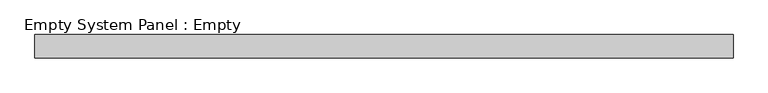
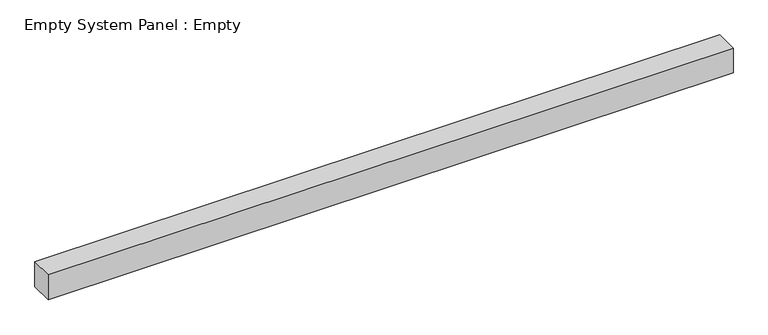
"""IFC4 building model written with IfcOpenShell, lengths in millimetres: plate geometry, Empty System Panel : Empty."""

from ifc_helpers import new_model, si_unit, origin, origin_with_axes, place, context, project, spatial, polyline, outline, extrude, source, transform, mapped, element, save


def empty_system_panel_empty_98f2a64c(model_context):
    return source(origin(), model_context, "Body", "SweptSolid", [
        extrude(outline(polyline([(1500.0, -50.0), (-1500.0, -50.0), (-1500.0, 50.0), (1500.0, 50.0), (1500.0, -50.0)])), origin_with_axes(), (0.0, 0.0, 1.0), 115.0),
    ])


if __name__ == "__main__":
    model = new_model("IFC4")
    model_context = context("Model", 3, world=origin())
    ifc_project = project(units=[si_unit("LENGTHUNIT", "METRE", prefix="MILLI")], contexts=[model_context])
    site = spatial("IfcSite", under=ifc_project)
    building = spatial("IfcBuilding", under=site)
    placement = place(None, origin())
    empty_system_panel_empty_shape = empty_system_panel_empty_98f2a64c(model_context)
    element("IfcPlate", 1, ObjectType="Empty System Panel : Empty", at=placement, inside=building, context=model_context, shape_type="MappedRepresentation", body=[
        mapped(empty_system_panel_empty_shape, transform((0.0, 0.0, 0.0), x_axis=(1.0, 0.0, 0.0), y_axis=(0.0, 1.0, 0.0), z_axis=(0.0, 0.0, 1.0))),
    ])
    save(model, "model.ifc")
